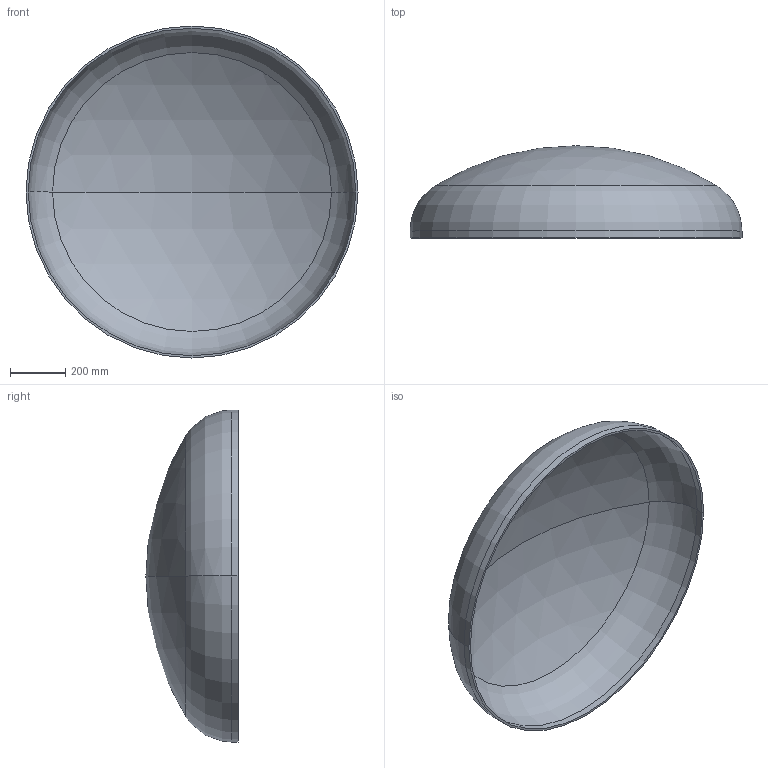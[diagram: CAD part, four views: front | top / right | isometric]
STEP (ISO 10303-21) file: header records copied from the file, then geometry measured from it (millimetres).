
FILE_DESCRIPTION (( 'STEP AP203' ), '1' );
FILE_NAME ('DIN 28013 Korbbogenform_-_Boden DIN 28013 - 1200 x 25 - I - s=8.step', '2016-07-01T09:20:02', ( '' ), ( '' ), 'SwSTEP 2.0', 'SolidWorks 2013', '' );
FILE_SCHEMA (( 'CONFIG_CONTROL_DESIGN' ));
Length unit declared in the file: millimetre
Products named in the file (1): DIN 28013 Korbbogenform_-_Boden DIN 28013 - 1200 x 25 - I - s=8
Bounding box: 1200 x 333.47 x 1200 mm (x, y, z)
Volume: 13172860.5 mm3; surface area: 3323306.1 mm2
Topology: 1 solids, 1 shells, 13 faces, 24 edges, 14 vertices
Faces by surface type: torus 4, cylinder 4, sphere 4, plane 1
Entity records: 407 total; most frequent: DIRECTION 72, CARTESIAN_POINT 52, ORIENTED_EDGE 48, AXIS2_PLACEMENT_3D 34, EDGE_CURVE 24, CIRCLE 20, VERTEX_POINT 14, EDGE_LOOP 14
